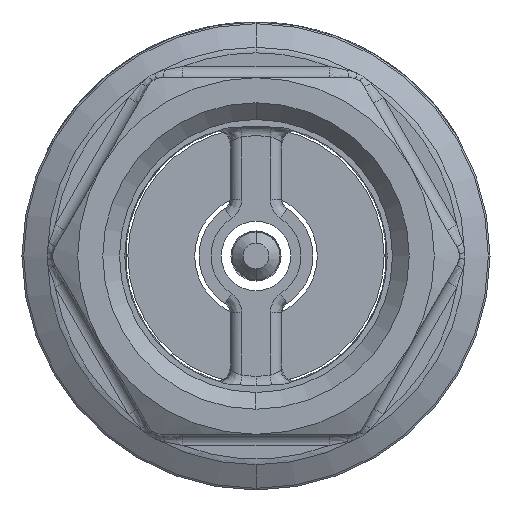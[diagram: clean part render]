
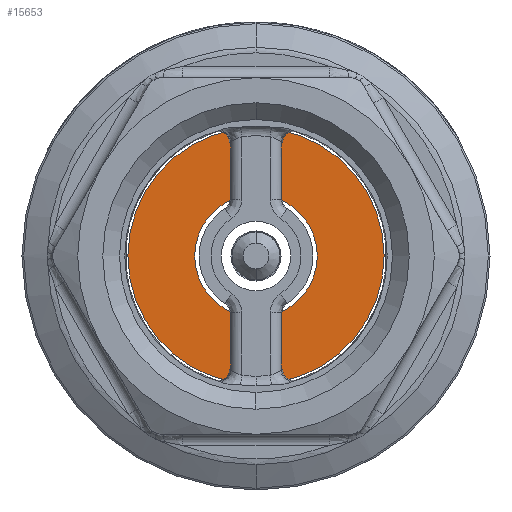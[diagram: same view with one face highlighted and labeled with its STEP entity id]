
A CAD part, front view. The second image highlights one B-rep face of the part: STEP entity #15653.
In plain terms, the highlighted planar face has unit normal (0, -1, 0).
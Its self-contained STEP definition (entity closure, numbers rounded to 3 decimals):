
#181 = VERTEX_POINT ( 'NONE', #11772 ) ;
#452 = CIRCLE ( 'NONE', #16227, 2. ) ;
#864 = CARTESIAN_POINT ( 'NONE',  ( 5.5, -36.491, 0. ) ) ;
#1502 = DIRECTION ( 'NONE',  ( 0., 1., 0. ) ) ;
#1584 = EDGE_LOOP ( 'NONE', ( #12684, #5045 ) ) ;
#1620 = VERTEX_POINT ( 'NONE', #11244 ) ;
#1724 = AXIS2_PLACEMENT_3D ( 'NONE', #7432, #16298, #8720 ) ;
#1874 = AXIS2_PLACEMENT_3D ( 'NONE', #864, #7306, #16180 ) ;
#2046 = CARTESIAN_POINT ( 'NONE',  ( 1.869, -36.491, 10.84 ) ) ;
#2234 = CARTESIAN_POINT ( 'NONE',  ( -1.954, -36.491, 11.333 ) ) ;
#2352 = EDGE_CURVE ( 'NONE', #1620, #15973, #452, .T. ) ;
#3337 = DIRECTION ( 'NONE',  ( 0., 0., -1. ) ) ;
#3424 = CIRCLE ( 'NONE', #6392, 5.5 ) ;
#3494 = CARTESIAN_POINT ( 'NONE',  ( 0., -36.491, 0. ) ) ;
#4095 = CARTESIAN_POINT ( 'NONE',  ( 0., -36.491, 5.5 ) ) ;
#4238 = VERTEX_POINT ( 'NONE', #2234 ) ;
#4381 = DIRECTION ( 'NONE',  ( 0., -1., 0. ) ) ;
#4668 = CARTESIAN_POINT ( 'NONE',  ( -1.495, -36.491, 11.172 ) ) ;
#4725 = EDGE_CURVE ( 'NONE', #4238, #181, #13212, .T. ) ;
#4739 = CARTESIAN_POINT ( 'NONE',  ( 0., -36.491, 0. ) ) ;
#4742 = EDGE_CURVE ( 'NONE', #9636, #10425, #3424, .T. ) ;
#4802 = DIRECTION ( 'NONE',  ( 0., 0., -1. ) ) ;
#4853 = ORIENTED_EDGE ( 'NONE', *, *, #4725, .T. ) ;
#5045 = ORIENTED_EDGE ( 'NONE', *, *, #4742, .F. ) ;
#5096 = ORIENTED_EDGE ( 'NONE', *, *, #2352, .T. ) ;
#5221 = EDGE_LOOP ( 'NONE', ( #4853, #8799, #5096, #16189 ) ) ;
#6050 = DIRECTION ( 'NONE',  ( 0., 0., -1. ) ) ;
#6392 = AXIS2_PLACEMENT_3D ( 'NONE', #3494, #12419, #4802 ) ;
#7306 = DIRECTION ( 'NONE',  ( 0., -1., 0. ) ) ;
#7432 = CARTESIAN_POINT ( 'NONE',  ( -1.869, -36.491, 10.84 ) ) ;
#7755 = CIRCLE ( 'NONE', #1724, 0.5 ) ;
#8720 = DIRECTION ( 'NONE',  ( 0., 0., -1. ) ) ;
#8799 = ORIENTED_EDGE ( 'NONE', *, *, #15053, .T. ) ;
#9202 = CARTESIAN_POINT ( 'NONE',  ( 0., -36.491, 12.5 ) ) ;
#9636 = VERTEX_POINT ( 'NONE', #4095 ) ;
#10425 = VERTEX_POINT ( 'NONE', #14096 ) ;
#10456 = DIRECTION ( 'NONE',  ( 0., 0., -1. ) ) ;
#10517 = EDGE_CURVE ( 'NONE', #10425, #9636, #14308, .T. ) ;
#10983 = DIRECTION ( 'NONE',  ( 0., -1., 0. ) ) ;
#11123 = EDGE_CURVE ( 'NONE', #15973, #4238, #7755, .T. ) ;
#11244 = CARTESIAN_POINT ( 'NONE',  ( 1.495, -36.491, 11.172 ) ) ;
#11646 = FACE_BOUND ( 'NONE', #1584, .T. ) ;
#11772 = CARTESIAN_POINT ( 'NONE',  ( 1.954, -36.491, 11.333 ) ) ;
#11918 = AXIS2_PLACEMENT_3D ( 'NONE', #2046, #10983, #3337 ) ;
#12006 = CARTESIAN_POINT ( 'NONE',  ( 0., -36.491, 0. ) ) ;
#12419 = DIRECTION ( 'NONE',  ( 0., -1., 0. ) ) ;
#12684 = ORIENTED_EDGE ( 'NONE', *, *, #10517, .F. ) ;
#13212 = CIRCLE ( 'NONE', #16039, 11.5 ) ;
#13290 = DIRECTION ( 'NONE',  ( 0., 0., -1. ) ) ;
#13650 = DIRECTION ( 'NONE',  ( 0., -1., 0. ) ) ;
#14096 = CARTESIAN_POINT ( 'NONE',  ( 0., -36.491, -5.5 ) ) ;
#14308 = CIRCLE ( 'NONE', #15178, 5.5 ) ;
#14891 = PLANE ( 'NONE',  #1874 ) ;
#14999 = FACE_OUTER_BOUND ( 'NONE', #5221, .T. ) ;
#15053 = EDGE_CURVE ( 'NONE', #181, #1620, #15224, .T. ) ;
#15178 = AXIS2_PLACEMENT_3D ( 'NONE', #12006, #4381, #13290 ) ;
#15224 = CIRCLE ( 'NONE', #11918, 0.5 ) ;
#15653 = ADVANCED_FACE ( 'NONE', ( #14999, #11646 ), #14891, .T. ) ;
#15973 = VERTEX_POINT ( 'NONE', #4668 ) ;
#16039 = AXIS2_PLACEMENT_3D ( 'NONE', #4739, #13650, #6050 ) ;
#16180 = DIRECTION ( 'NONE',  ( 0., 0., -1. ) ) ;
#16189 = ORIENTED_EDGE ( 'NONE', *, *, #11123, .T. ) ;
#16227 = AXIS2_PLACEMENT_3D ( 'NONE', #9202, #1502, #10456 ) ;
#16298 = DIRECTION ( 'NONE',  ( 0., -1., 0. ) ) ;
